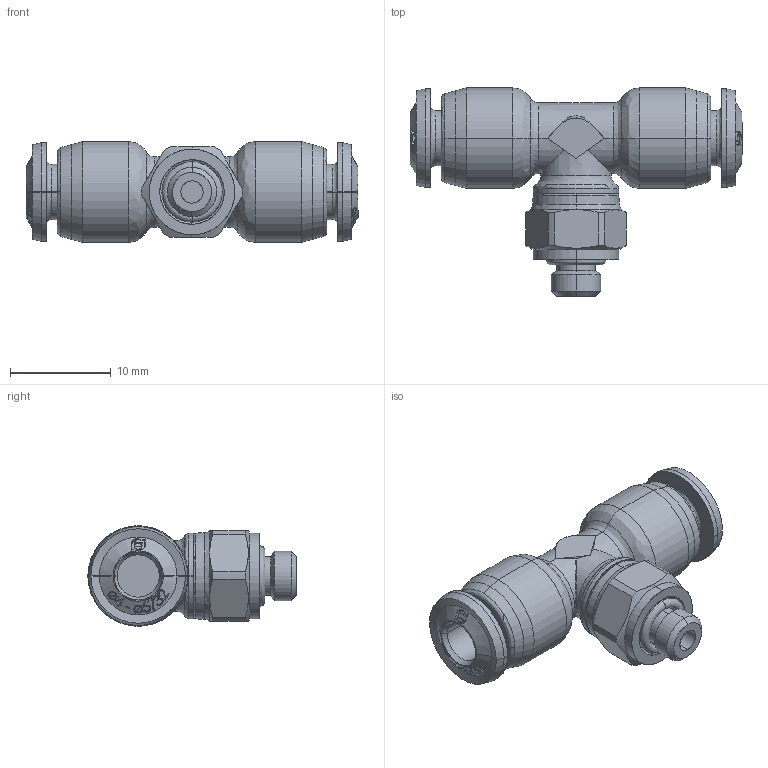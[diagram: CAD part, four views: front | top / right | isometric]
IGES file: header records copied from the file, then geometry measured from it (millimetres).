
Start section: SolidWorks IGES file using analytic representation for surfaces
Global section: file name: K:\Disegni Esecutivi\Serie 55000\ASSIEMI_55000\55216\ASSIEMI_PIENI_55216\5521600002.IGS; native system: SolidWorks 2007; preprocessor: SolidWorks 2007; author: cad02; date: 071127.171618; units: millimetre
Bounding box: 33 x 20.7 x 10 mm (x, y, z)
Surface area: 1866.9 mm2 (no closed solid volume)
Topology: 0 solids, 0 shells, 414 faces, 3960 edges, 3960 vertices
Faces by surface type: bspline 299, revolution 115
